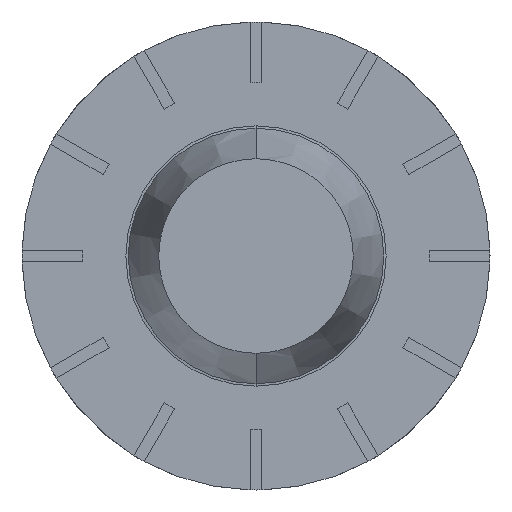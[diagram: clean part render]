
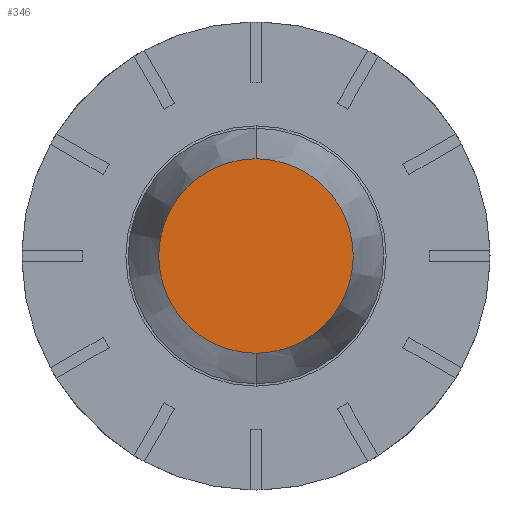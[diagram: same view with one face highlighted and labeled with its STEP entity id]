
A CAD part, front view. The second image highlights one B-rep face of the part: STEP entity #346.
In plain terms, the highlighted planar face has unit normal (0, -1, 0).
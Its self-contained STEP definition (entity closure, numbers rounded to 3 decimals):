
#177 = DIRECTION ( 'NONE',  ( 0., 0., 1. ) ) ;
#178 = DIRECTION ( 'NONE',  ( 0., 1., 0. ) ) ;
#179 = CARTESIAN_POINT ( 'NONE',  ( 0., -30.2, 0. ) ) ;
#346 = ADVANCED_FACE ( 'NONE', ( #1054 ), #3206, .T. ) ;
#373 = VERTEX_POINT ( 'NONE', #3103 ) ;
#378 = VERTEX_POINT ( 'NONE', #3097 ) ;
#437 = CIRCLE ( 'NONE', #721, 4.075 ) ;
#666 = EDGE_CURVE ( 'NONE', #378, #373, #3065, .T. ) ;
#721 = AXIS2_PLACEMENT_3D ( 'NONE', #179, #178, #177 ) ;
#793 = AXIS2_PLACEMENT_3D ( 'NONE', #1703, #1702, #1701 ) ;
#818 = AXIS2_PLACEMENT_3D ( 'NONE', #3208, #3203, #3202 ) ;
#1054 = FACE_OUTER_BOUND ( 'NONE', #2188, .T. ) ;
#1493 = ORIENTED_EDGE ( 'NONE', *, *, #2821, .F. ) ;
#1494 = ORIENTED_EDGE ( 'NONE', *, *, #666, .F. ) ;
#1701 = DIRECTION ( 'NONE',  ( 0., 0., 1. ) ) ;
#1702 = DIRECTION ( 'NONE',  ( 0., 1., 0. ) ) ;
#1703 = CARTESIAN_POINT ( 'NONE',  ( 0., -30.2, 0. ) ) ;
#2188 = EDGE_LOOP ( 'NONE', ( #1494, #1493 ) ) ;
#2821 = EDGE_CURVE ( 'NONE', #373, #378, #437, .T. ) ;
#3065 = CIRCLE ( 'NONE', #793, 4.075 ) ;
#3097 = CARTESIAN_POINT ( 'NONE',  ( 0., -30.2, 4.075 ) ) ;
#3103 = CARTESIAN_POINT ( 'NONE',  ( 0., -30.2, -4.075 ) ) ;
#3202 = DIRECTION ( 'NONE',  ( 0., 0., -1. ) ) ;
#3203 = DIRECTION ( 'NONE',  ( 0., -1., 0. ) ) ;
#3206 = PLANE ( 'NONE',  #818 ) ;
#3208 = CARTESIAN_POINT ( 'NONE',  ( -4.075, -30.2, 0. ) ) ;
